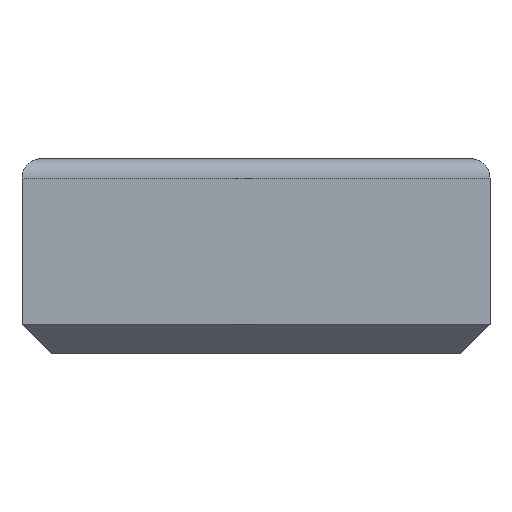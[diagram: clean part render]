
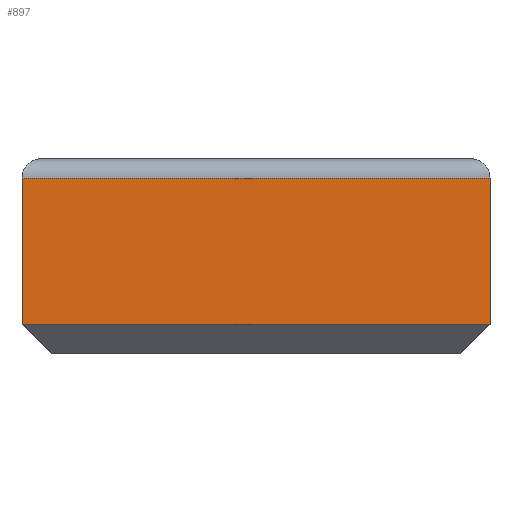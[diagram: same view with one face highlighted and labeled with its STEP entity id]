
A CAD part, front view. The second image highlights one B-rep face of the part: STEP entity #897.
In plain terms, the highlighted planar face has unit normal (0, -1, 0).
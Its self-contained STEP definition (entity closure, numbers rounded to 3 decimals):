
#219 = FACE_OUTER_BOUND ( 'NONE', #634, .T. ) ;
#299 = LINE ( 'NONE', #4752, #1079 ) ;
#451 = CARTESIAN_POINT ( 'NONE',  ( 24., 0., 18. ) ) ;
#634 = EDGE_LOOP ( 'NONE', ( #2780, #2605, #2200, #2014 ) ) ;
#860 = VERTEX_POINT ( 'NONE', #3723 ) ;
#876 = EDGE_CURVE ( 'NONE', #2289, #4300, #2266, .T. ) ;
#897 = ADVANCED_FACE ( 'NONE', ( #219 ), #949, .T. ) ;
#949 = PLANE ( 'NONE',  #1577 ) ;
#1079 = VECTOR ( 'NONE', #4285, 1000. ) ;
#1127 = LINE ( 'NONE', #4540, #5051 ) ;
#1419 = CARTESIAN_POINT ( 'NONE',  ( 0., 0., 3. ) ) ;
#1554 = EDGE_CURVE ( 'NONE', #4300, #860, #1127, .T. ) ;
#1577 = AXIS2_PLACEMENT_3D ( 'NONE', #4753, #4837, #2105 ) ;
#1751 = CARTESIAN_POINT ( 'NONE',  ( 24., 0., 3. ) ) ;
#2014 = ORIENTED_EDGE ( 'NONE', *, *, #876, .T. ) ;
#2058 = LINE ( 'NONE', #451, #2972 ) ;
#2105 = DIRECTION ( 'NONE',  ( 0., 0., -1. ) ) ;
#2200 = ORIENTED_EDGE ( 'NONE', *, *, #2411, .F. ) ;
#2266 = LINE ( 'NONE', #1751, #4377 ) ;
#2289 = VERTEX_POINT ( 'NONE', #1419 ) ;
#2411 = EDGE_CURVE ( 'NONE', #2289, #4367, #299, .T. ) ;
#2605 = ORIENTED_EDGE ( 'NONE', *, *, #4045, .F. ) ;
#2780 = ORIENTED_EDGE ( 'NONE', *, *, #1554, .T. ) ;
#2972 = VECTOR ( 'NONE', #3156, 1000. ) ;
#3156 = DIRECTION ( 'NONE',  ( 1., 0., 0. ) ) ;
#3723 = CARTESIAN_POINT ( 'NONE',  ( 48., 0., 18. ) ) ;
#3757 = DIRECTION ( 'NONE',  ( 1., 0., 0. ) ) ;
#4045 = EDGE_CURVE ( 'NONE', #4367, #860, #2058, .T. ) ;
#4285 = DIRECTION ( 'NONE',  ( 0., 0., 1. ) ) ;
#4300 = VERTEX_POINT ( 'NONE', #4334 ) ;
#4334 = CARTESIAN_POINT ( 'NONE',  ( 48., 0., 3. ) ) ;
#4367 = VERTEX_POINT ( 'NONE', #4392 ) ;
#4377 = VECTOR ( 'NONE', #3757, 1000. ) ;
#4392 = CARTESIAN_POINT ( 'NONE',  ( 0., 0., 18. ) ) ;
#4503 = DIRECTION ( 'NONE',  ( 0., 0., 1. ) ) ;
#4540 = CARTESIAN_POINT ( 'NONE',  ( 48., 0., 10.5 ) ) ;
#4752 = CARTESIAN_POINT ( 'NONE',  ( 0., 0., 10.5 ) ) ;
#4753 = CARTESIAN_POINT ( 'NONE',  ( 0., 0., 0. ) ) ;
#4837 = DIRECTION ( 'NONE',  ( 0., -1., 0. ) ) ;
#5051 = VECTOR ( 'NONE', #4503, 1000. ) ;
